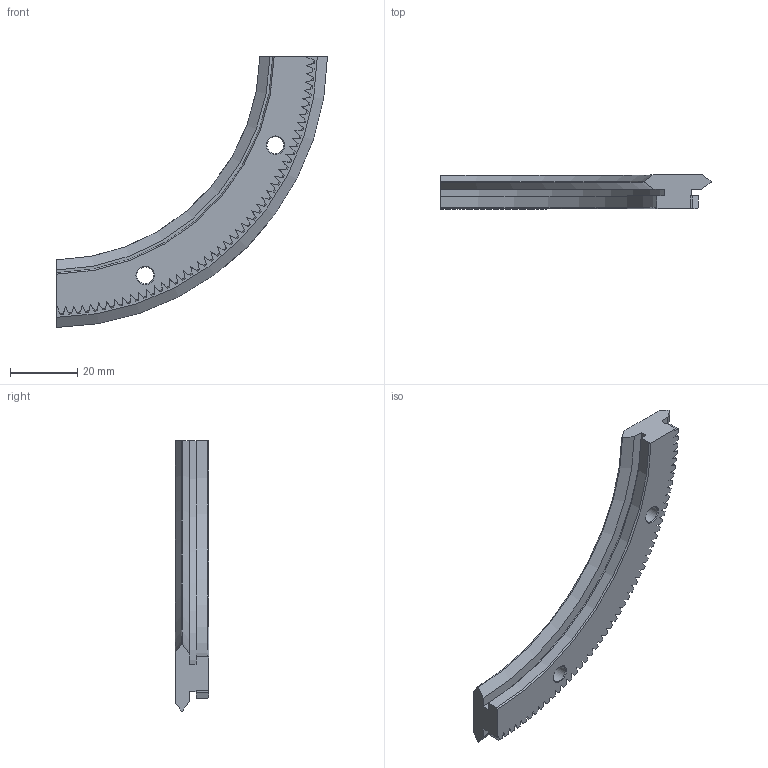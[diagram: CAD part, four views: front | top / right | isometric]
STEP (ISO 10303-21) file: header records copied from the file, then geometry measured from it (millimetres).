
FILE_DESCRIPTION( ( 'STEP AP203' ), '1' );
FILE_NAME( 'p:/temp/worker_71/temp/exporttempdir_3676_160_O9kX8/format_0/R20 143 R90 P.stp', '2021-08-30T04:10:28', ( 'License CC BY-ND 4.0' ), ( 'CADENAS' ), ' ', 'PARTsolutions', ' ' );
FILE_SCHEMA( ( 'CONFIG_CONTROL_DESIGN' ) );
Length unit declared in the file: millimetre
Products named in the file (1): _R20 143 R90 P
Bounding box: 80.54 x 10 x 80.54 mm (x, y, z)
Volume: 14078.5 mm3; surface area: 7846.4 mm2
Topology: 1 solids, 1 shells, 312 faces, 826 edges, 518 vertices
Faces by surface type: plane 202, cone 54, cylinder 54, torus 2
Full cylindrical faces by diameter (mm): 5 x2, 8 x2
Entity records: 9726 total; most frequent: CARTESIAN_POINT 1983, ORIENTED_EDGE 1640, DIRECTION 1600, EDGE_CURVE 820, AXIS2_PLACEMENT_3D 575, VERTEX_POINT 518, LINE 450, VECTOR 450
